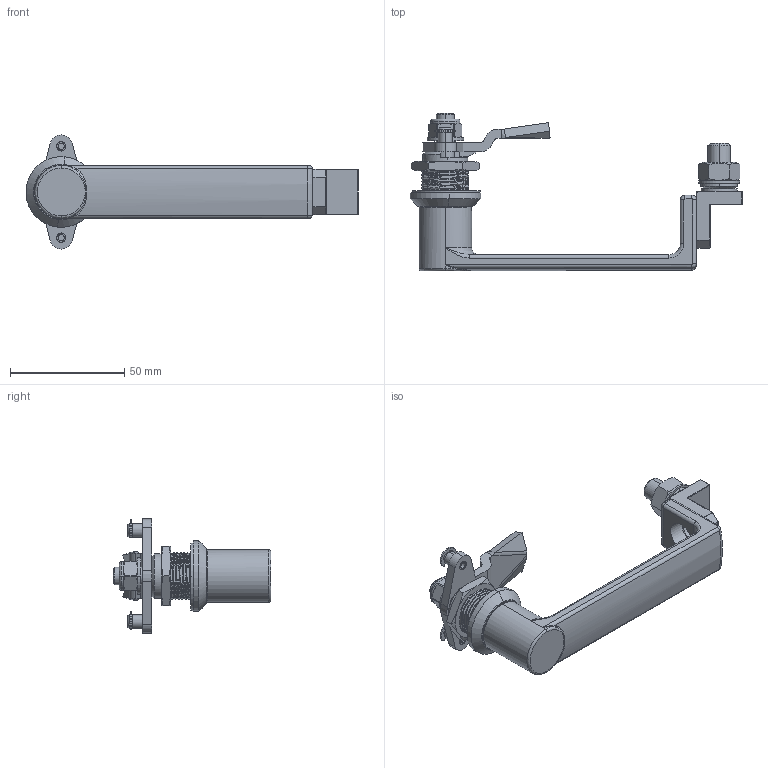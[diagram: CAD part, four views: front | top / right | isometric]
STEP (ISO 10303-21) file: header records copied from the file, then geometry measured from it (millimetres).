
FILE_DESCRIPTION (( 'STEP AP214' ), '1' );
FILE_NAME ('MS868.STEP', '2026-07-06T09:11:52', ( '' ), ( '' ), 'SwSTEP 2.0', 'SolidWorks 2020', '' );
FILE_SCHEMA (( 'AUTOMOTIVE_DESIGN' ));
Length unit declared in the file: millimetre
Products named in the file (17): PINGDIANQUAN_15_8X10^MS868(); LUOMU^MS868(); MAOXIAO^MS868(); XIANJIAN_1^MS868(); T_DIANQUAN^MS868(); GANGSHAN^MS868(); LIUJIAOLUOMU^MS868(); DIAN^MS868(); LUOMU_1^MS868(); SHOUBAN^MS868(); DIANPIAN_2^MS868(); XIANGJIAN_2^MS868(); SHOUBIN^MS868(); JIZUO^MS868(); LOCK_WASHER^MS868(); MS868; PINDIANPIAN_29_5X22^MS868()
Assembly tree (18 placements, depth 2):
  MS868
    SHOUBIN^MS868()
    JIZUO^MS868()
    LIUJIAOLUOMU^MS868()
    GANGSHAN^MS868()
    MAOXIAO^MS868()  x2
    LOCK_WASHER^MS868()  x2
    DIANPIAN_2^MS868()
    LUOMU_1^MS868()
    SHOUBAN^MS868()
    T_DIANQUAN^MS868()
    LUOMU^MS868()
    PINDIANPIAN_29_5X22^MS868()
    PINGDIANQUAN_15_8X10^MS868()
    XIANJIAN_1^MS868()
    XIANGJIAN_2^MS868()
    DIAN^MS868()
Bounding box: 145.46 x 69.1 x 50 mm (x, y, z)
Volume: 51880.4 mm3; surface area: 30594.2 mm2
Topology: 14 solids, 22 shells, 703 faces, 1744 edges, 1069 vertices
Faces by surface type: plane 228, cylinder 210, bspline 167, cone 90, torus 8
Entity records: 38871 total; most frequent: CARTESIAN_POINT 19859, ORIENTED_EDGE 3216, DIRECTION 2446, EDGE_CURVE 1616, VERTEX_POINT 1003, AXIS2_PLACEMENT_3D 947, EDGE_LOOP 707, ADVANCED_FACE 661
